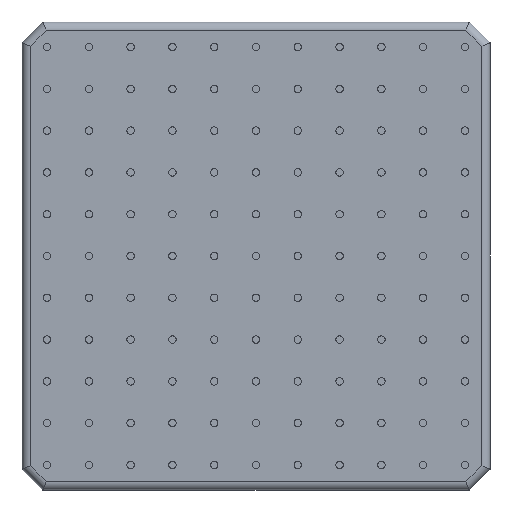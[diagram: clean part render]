
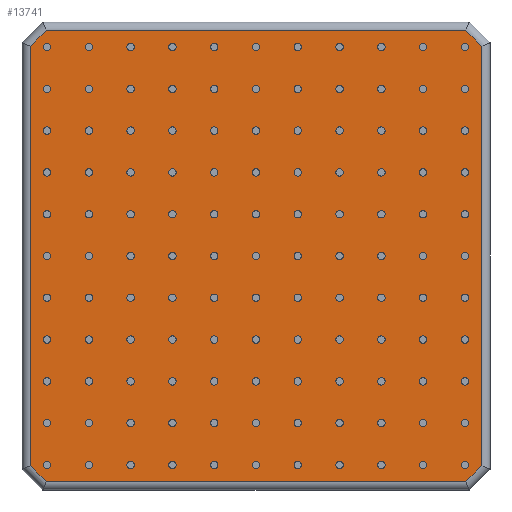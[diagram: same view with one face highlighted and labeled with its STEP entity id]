
A CAD part, front view. The second image highlights one B-rep face of the part: STEP entity #13741.
In plain terms, the highlighted planar face has unit normal (0, -1, 0).
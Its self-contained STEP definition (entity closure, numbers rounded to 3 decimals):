
#13670 = CARTESIAN_POINT ( 'NONE',  ( 12.744, 1., 13.716 ) ) ;
#13671 = VERTEX_POINT ( 'NONE', #13670 ) ;
#13672 = CARTESIAN_POINT ( 'NONE',  ( -12.744, 1., 13.716 ) ) ;
#13673 = VERTEX_POINT ( 'NONE', #13672 ) ;
#13674 = CARTESIAN_POINT ( 'NONE',  ( -12.954, 1., 13.716 ) ) ;
#13675 = DIRECTION ( 'NONE',  ( -1., 0., 0. ) ) ;
#13676 = VECTOR ( 'NONE', #13675, 1000. ) ;
#13677 = LINE ( 'NONE', #13674, #13676 ) ;
#13678 = EDGE_CURVE ( 'NONE', #13671, #13673, #13677, .T. ) ;
#13679 = ORIENTED_EDGE ( 'NONE', *, *, #13678, .T. ) ;
#13680 = CARTESIAN_POINT ( 'NONE',  ( -13.716, 1., 12.744 ) ) ;
#13681 = VERTEX_POINT ( 'NONE', #13680 ) ;
#13682 = CARTESIAN_POINT ( 'NONE',  ( -13.23, 1., 13.23 ) ) ;
#13683 = DIRECTION ( 'NONE',  ( -0.707, 0., -0.707 ) ) ;
#13684 = VECTOR ( 'NONE', #13683, 1000. ) ;
#13685 = LINE ( 'NONE', #13682, #13684 ) ;
#13686 = EDGE_CURVE ( 'NONE', #13673, #13681, #13685, .T. ) ;
#13687 = ORIENTED_EDGE ( 'NONE', *, *, #13686, .T. ) ;
#13688 = CARTESIAN_POINT ( 'NONE',  ( -13.716, 1., -12.744 ) ) ;
#13689 = VERTEX_POINT ( 'NONE', #13688 ) ;
#13690 = CARTESIAN_POINT ( 'NONE',  ( -13.716, 1., -12.954 ) ) ;
#13691 = DIRECTION ( 'NONE',  ( 0., 0., -1. ) ) ;
#13692 = VECTOR ( 'NONE', #13691, 1000. ) ;
#13693 = LINE ( 'NONE', #13690, #13692 ) ;
#13694 = EDGE_CURVE ( 'NONE', #13681, #13689, #13693, .T. ) ;
#13695 = ORIENTED_EDGE ( 'NONE', *, *, #13694, .T. ) ;
#13696 = CARTESIAN_POINT ( 'NONE',  ( -12.744, 1., -13.716 ) ) ;
#13697 = VERTEX_POINT ( 'NONE', #13696 ) ;
#13698 = CARTESIAN_POINT ( 'NONE',  ( -13.23, 1., -13.23 ) ) ;
#13699 = DIRECTION ( 'NONE',  ( 0.707, 0., -0.707 ) ) ;
#13700 = VECTOR ( 'NONE', #13699, 1000. ) ;
#13701 = LINE ( 'NONE', #13698, #13700 ) ;
#13702 = EDGE_CURVE ( 'NONE', #13689, #13697, #13701, .T. ) ;
#13703 = ORIENTED_EDGE ( 'NONE', *, *, #13702, .T. ) ;
#13704 = CARTESIAN_POINT ( 'NONE',  ( 12.744, 1., -13.716 ) ) ;
#13705 = VERTEX_POINT ( 'NONE', #13704 ) ;
#13706 = CARTESIAN_POINT ( 'NONE',  ( 12.954, 1., -13.716 ) ) ;
#13707 = DIRECTION ( 'NONE',  ( 1., 0., 0. ) ) ;
#13708 = VECTOR ( 'NONE', #13707, 1000. ) ;
#13709 = LINE ( 'NONE', #13706, #13708 ) ;
#13710 = EDGE_CURVE ( 'NONE', #13697, #13705, #13709, .T. ) ;
#13711 = ORIENTED_EDGE ( 'NONE', *, *, #13710, .T. ) ;
#13712 = CARTESIAN_POINT ( 'NONE',  ( 13.716, 1., -12.744 ) ) ;
#13713 = VERTEX_POINT ( 'NONE', #13712 ) ;
#13714 = CARTESIAN_POINT ( 'NONE',  ( 13.23, 1., -13.23 ) ) ;
#13715 = DIRECTION ( 'NONE',  ( 0.707, 0., 0.707 ) ) ;
#13716 = VECTOR ( 'NONE', #13715, 1000. ) ;
#13717 = LINE ( 'NONE', #13714, #13716 ) ;
#13718 = EDGE_CURVE ( 'NONE', #13705, #13713, #13717, .T. ) ;
#13719 = ORIENTED_EDGE ( 'NONE', *, *, #13718, .T. ) ;
#13720 = CARTESIAN_POINT ( 'NONE',  ( 13.716, 1., 12.744 ) ) ;
#13721 = VERTEX_POINT ( 'NONE', #13720 ) ;
#13722 = CARTESIAN_POINT ( 'NONE',  ( 13.716, 1., 12.954 ) ) ;
#13723 = DIRECTION ( 'NONE',  ( 0., 0., 1. ) ) ;
#13724 = VECTOR ( 'NONE', #13723, 1000. ) ;
#13725 = LINE ( 'NONE', #13722, #13724 ) ;
#13726 = EDGE_CURVE ( 'NONE', #13713, #13721, #13725, .T. ) ;
#13727 = ORIENTED_EDGE ( 'NONE', *, *, #13726, .T. ) ;
#13728 = CARTESIAN_POINT ( 'NONE',  ( 13.23, 1., 13.23 ) ) ;
#13729 = DIRECTION ( 'NONE',  ( -0.707, 0., 0.707 ) ) ;
#13730 = VECTOR ( 'NONE', #13729, 1000. ) ;
#13731 = LINE ( 'NONE', #13728, #13730 ) ;
#13732 = EDGE_CURVE ( 'NONE', #13721, #13671, #13731, .T. ) ;
#13733 = ORIENTED_EDGE ( 'NONE', *, *, #13732, .T. ) ;
#13734 = EDGE_LOOP ( 'NONE', ( #13679, #13687, #13695, #13703, #13711, #13719, #13727, #13733 ) ) ;
#13735 = FACE_OUTER_BOUND ( 'NONE', #13734, .T. ) ;
#13736 = CARTESIAN_POINT ( 'NONE',  ( 0., 1., 0. ) ) ;
#13737 = DIRECTION ( 'NONE',  ( 0., -1., 0. ) ) ;
#13738 = DIRECTION ( 'NONE',  ( 0., 0., -1. ) ) ;
#13739 = AXIS2_PLACEMENT_3D ( 'NONE', #13736, #13737, #13738 ) ;
#13740 = PLANE ( 'NONE', #13739 ) ;
#13741 = ADVANCED_FACE ( 'NONE', ( #13735 ), #13740, .T. ) ;
